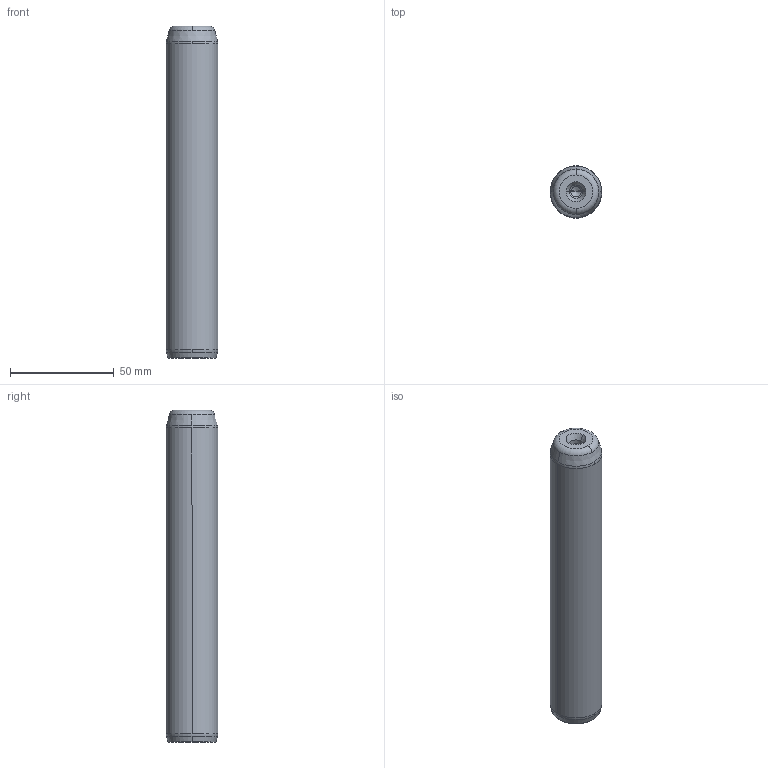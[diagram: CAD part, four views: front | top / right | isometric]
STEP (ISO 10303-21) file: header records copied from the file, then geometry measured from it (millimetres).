
FILE_DESCRIPTION((''),'2;1');
FILE_NAME('P10_025_160.stp','2008-12-23T14:54:44',(''),(''),'Mechanical Desktop 2009','Mechanical Desktop 2009',', , ');
FILE_SCHEMA(('CONFIG_CONTROL_DESIGN'));
Length unit declared in the file: millimetre
Products named in the file (5): Product; ProductAA; blmdl1; ProductA; blmdl1A
Assembly tree (2 placements, depth 3):
  Product
    ProductAA
      blmdl1
  ProductA
  blmdl1A
Bounding box: 25 x 25 x 160 mm (x, y, z)
Volume: 77171.1 mm3; surface area: 13569.3 mm2
Topology: 1 solids, 1 shells, 26 faces, 66 edges, 41 vertices
Faces by surface type: cone 10, torus 8, cylinder 6, plane 2
Entity records: 1012 total; most frequent: DIRECTION 170, CARTESIAN_POINT 134, ORIENTED_EDGE 128, AXIS2_PLACEMENT_3D 77, EDGE_CURVE 64, CIRCLE 48, VERTEX_POINT 41, EDGE_LOOP 27
